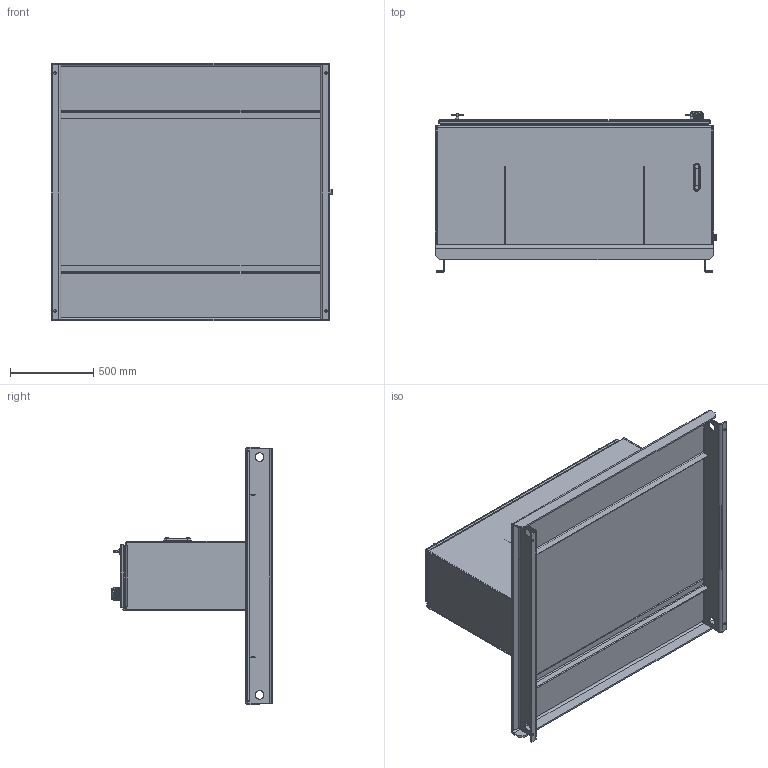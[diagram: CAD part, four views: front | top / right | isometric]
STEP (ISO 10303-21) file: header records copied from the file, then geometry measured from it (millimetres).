
FILE_DESCRIPTION (( 'STEP AP203' ), '1' );
FILE_NAME ('RTP080-HT.STEP', '2015-01-07T19:17:32', ( '' ), ( '' ), 'SwSTEP 2.0', 'SolidWorks 2014', '' );
FILE_SCHEMA (( 'CONFIG_CONTROL_DESIGN' ));
Length unit declared in the file: inch
Products named in the file (1): RTP080-HT
Bounding box: 1695.45 x 966.02 x 1552.58 mm (x, y, z)
Volume: 51219650.7 mm3; surface area: 16786980.6 mm2
Topology: 58 solids, 236 shells, 3091 faces, 6792 edges, 4125 vertices
Faces by surface type: plane 1282, cylinder 1124, torus 407, bspline 136, cone 92, sphere 50
Entity records: 92813 total; most frequent: CARTESIAN_POINT 24280, DIRECTION 15144, ORIENTED_EDGE 13488, EDGE_CURVE 6744, AXIS2_PLACEMENT_3D 5897, VERTEX_POINT 4113, LINE 3350, VECTOR 3350
